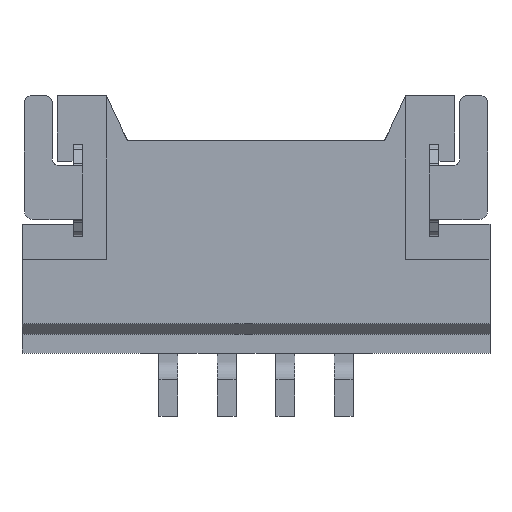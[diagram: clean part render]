
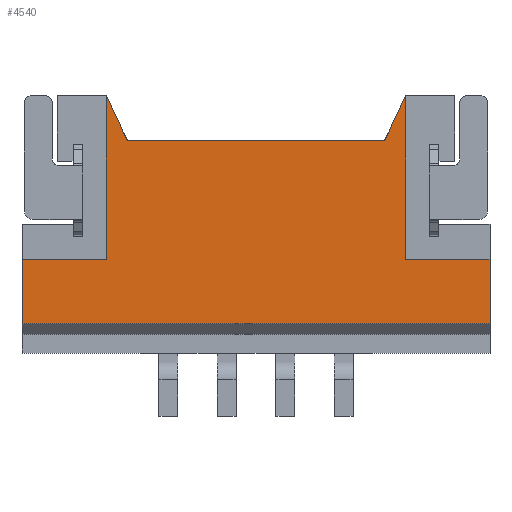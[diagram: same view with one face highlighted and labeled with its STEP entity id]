
A CAD part, top view. The second image highlights one B-rep face of the part: STEP entity #4540.
In plain terms, the highlighted planar face has unit normal (0, 0, 1).
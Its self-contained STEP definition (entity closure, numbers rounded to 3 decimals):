
#2810=CARTESIAN_POINT('Vertex',(-3.2,5.5,2.05)) ;
#2813=CARTESIAN_POINT('Line Origine',(-2.975,5.025,2.05)) ;
#2817=CARTESIAN_POINT('Vertex',(-2.75,4.55,2.05)) ;
#2873=CARTESIAN_POINT('Vertex',(2.75,4.55,2.05)) ;
#2876=CARTESIAN_POINT('Line Origine',(2.975,5.025,2.05)) ;
#2880=CARTESIAN_POINT('Vertex',(3.2,5.5,2.05)) ;
#4471=CARTESIAN_POINT('Axis2P3D Location',(0.,0.625,2.05)) ;
#4476=CARTESIAN_POINT('Line Origine',(4.1,2.,2.05)) ;
#4480=CARTESIAN_POINT('Vertex',(3.2,2.,2.05)) ;
#4482=CARTESIAN_POINT('Vertex',(5.,2.,2.05)) ;
#4485=CARTESIAN_POINT('Line Origine',(3.2,3.75,2.05)) ;
#4490=CARTESIAN_POINT('Line Origine',(0.,4.55,2.05)) ;
#4495=CARTESIAN_POINT('Line Origine',(-3.2,3.75,2.05)) ;
#4499=CARTESIAN_POINT('Vertex',(-3.2,2.,2.05)) ;
#4502=CARTESIAN_POINT('Line Origine',(-4.1,2.,2.05)) ;
#4506=CARTESIAN_POINT('Vertex',(-5.,2.,2.05)) ;
#4509=CARTESIAN_POINT('Line Origine',(-5.,1.313,2.05)) ;
#4513=CARTESIAN_POINT('Vertex',(-5.,0.625,2.05)) ;
#4516=CARTESIAN_POINT('Line Origine',(0.,0.625,2.05)) ;
#4520=CARTESIAN_POINT('Vertex',(5.,0.625,2.05)) ;
#4523=CARTESIAN_POINT('Line Origine',(5.,1.313,2.05)) ;
#2814=DIRECTION('Vector Direction',(-0.428,0.904,0.)) ;
#2877=DIRECTION('Vector Direction',(-0.428,-0.904,0.)) ;
#4472=DIRECTION('Axis2P3D Direction',(0.,0.,-1.)) ;
#4473=DIRECTION('Axis2P3D XDirection',(0.,1.,0.)) ;
#4477=DIRECTION('Vector Direction',(-1.,0.,0.)) ;
#4486=DIRECTION('Vector Direction',(0.,-1.,0.)) ;
#4491=DIRECTION('Vector Direction',(-1.,0.,0.)) ;
#4496=DIRECTION('Vector Direction',(0.,-1.,0.)) ;
#4503=DIRECTION('Vector Direction',(1.,0.,0.)) ;
#4510=DIRECTION('Vector Direction',(0.,1.,0.)) ;
#4517=DIRECTION('Vector Direction',(1.,0.,0.)) ;
#4524=DIRECTION('Vector Direction',(0.,1.,0.)) ;
#4474=AXIS2_PLACEMENT_3D('Plane Axis2P3D',#4471,#4472,#4473) ;
#4529=ORIENTED_EDGE('',*,*,#4484,.F.) ;
#4530=ORIENTED_EDGE('',*,*,#4489,.F.) ;
#4531=ORIENTED_EDGE('',*,*,#2882,.F.) ;
#4532=ORIENTED_EDGE('',*,*,#4494,.F.) ;
#4533=ORIENTED_EDGE('',*,*,#2819,.F.) ;
#4534=ORIENTED_EDGE('',*,*,#4501,.F.) ;
#4535=ORIENTED_EDGE('',*,*,#4508,.F.) ;
#4536=ORIENTED_EDGE('',*,*,#4515,.T.) ;
#4537=ORIENTED_EDGE('',*,*,#4522,.T.) ;
#4538=ORIENTED_EDGE('',*,*,#4527,.F.) ;
#2815=VECTOR('Line Direction',#2814,1.) ;
#2878=VECTOR('Line Direction',#2877,1.) ;
#4478=VECTOR('Line Direction',#4477,1.) ;
#4487=VECTOR('Line Direction',#4486,1.) ;
#4492=VECTOR('Line Direction',#4491,1.) ;
#4497=VECTOR('Line Direction',#4496,1.) ;
#4504=VECTOR('Line Direction',#4503,1.) ;
#4511=VECTOR('Line Direction',#4510,1.) ;
#4518=VECTOR('Line Direction',#4517,1.) ;
#4525=VECTOR('Line Direction',#4524,1.) ;
#4540=ADVANCED_FACE('\X2\96F64EF651E04F554F53\X0\',(#4539),#4475,.F.) ;
#2819=EDGE_CURVE('',#2811,#2818,#2816,.F.) ;
#2882=EDGE_CURVE('',#2874,#2881,#2879,.F.) ;
#4484=EDGE_CURVE('',#4481,#4483,#4479,.F.) ;
#4489=EDGE_CURVE('',#2881,#4481,#4488,.T.) ;
#4494=EDGE_CURVE('',#2818,#2874,#4493,.F.) ;
#4501=EDGE_CURVE('',#4500,#2811,#4498,.F.) ;
#4508=EDGE_CURVE('',#4507,#4500,#4505,.T.) ;
#4515=EDGE_CURVE('',#4507,#4514,#4512,.F.) ;
#4522=EDGE_CURVE('',#4514,#4521,#4519,.T.) ;
#4527=EDGE_CURVE('',#4483,#4521,#4526,.F.) ;
#4528=EDGE_LOOP('',(#4529,#4530,#4531,#4532,#4533,#4534,#4535,#4536,#4537,#4538)) ;
#4539=FACE_OUTER_BOUND('',#4528,.T.) ;
#2816=LINE('Line',#2813,#2815) ;
#2879=LINE('Line',#2876,#2878) ;
#4479=LINE('Line',#4476,#4478) ;
#4488=LINE('Line',#4485,#4487) ;
#4493=LINE('Line',#4490,#4492) ;
#4498=LINE('Line',#4495,#4497) ;
#4505=LINE('Line',#4502,#4504) ;
#4512=LINE('Line',#4509,#4511) ;
#4519=LINE('Line',#4516,#4518) ;
#4526=LINE('Line',#4523,#4525) ;
#4475=PLANE('Plane',#4474) ;
#2811=VERTEX_POINT('',#2810) ;
#2818=VERTEX_POINT('',#2817) ;
#2874=VERTEX_POINT('',#2873) ;
#2881=VERTEX_POINT('',#2880) ;
#4481=VERTEX_POINT('',#4480) ;
#4483=VERTEX_POINT('',#4482) ;
#4500=VERTEX_POINT('',#4499) ;
#4507=VERTEX_POINT('',#4506) ;
#4514=VERTEX_POINT('',#4513) ;
#4521=VERTEX_POINT('',#4520) ;
